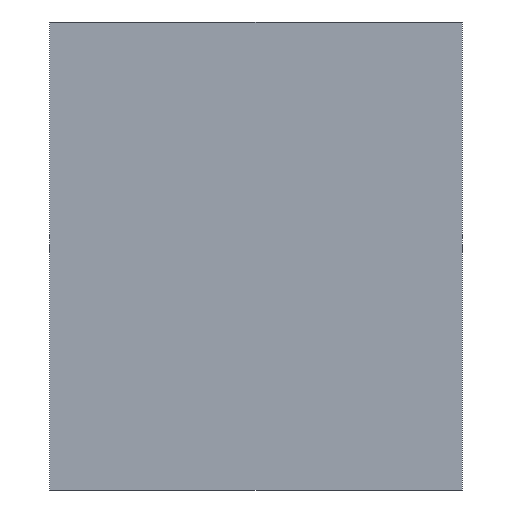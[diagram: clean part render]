
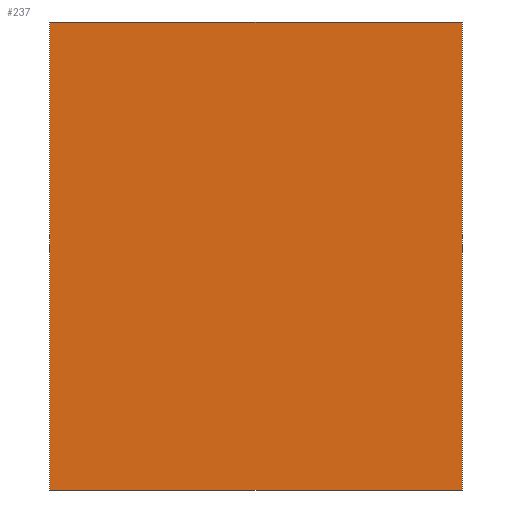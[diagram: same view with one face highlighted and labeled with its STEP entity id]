
A CAD part, front view. The second image highlights one B-rep face of the part: STEP entity #237.
In plain terms, the highlighted planar face has unit normal (0, -1, 0).
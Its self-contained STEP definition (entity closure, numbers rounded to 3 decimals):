
#21 = EDGE_CURVE('',#22,#24,#26,.T.);
#22 = VERTEX_POINT('',#23);
#23 = CARTESIAN_POINT('',(10.5,-45.775,1.3));
#24 = VERTEX_POINT('',#25);
#25 = CARTESIAN_POINT('',(10.5,-45.775,18.3));
#26 = SURFACE_CURVE('',#27,(#31,#43),.PCURVE_S1.);
#27 = LINE('',#28,#29);
#28 = CARTESIAN_POINT('',(10.5,-45.775,1.3));
#29 = VECTOR('',#30,1.);
#30 = DIRECTION('',(0.,0.,1.));
#31 = PCURVE('',#32,#37);
#32 = PLANE('',#33);
#33 = AXIS2_PLACEMENT_3D('',#34,#35,#36);
#34 = CARTESIAN_POINT('',(10.5,-45.775,1.3));
#35 = DIRECTION('',(1.,0.,0.));
#36 = DIRECTION('',(0.,0.,1.));
#37 = DEFINITIONAL_REPRESENTATION('',(#38),#42);
#38 = LINE('',#39,#40);
#39 = CARTESIAN_POINT('',(0.,0.));
#40 = VECTOR('',#41,1.);
#41 = DIRECTION('',(1.,0.));
#42 = ( GEOMETRIC_REPRESENTATION_CONTEXT(2) 
PARAMETRIC_REPRESENTATION_CONTEXT() REPRESENTATION_CONTEXT('2D SPACE',''
  ) );
#43 = PCURVE('',#44,#49);
#44 = PLANE('',#45);
#45 = AXIS2_PLACEMENT_3D('',#46,#47,#48);
#46 = CARTESIAN_POINT('',(10.5,-45.775,1.3));
#47 = DIRECTION('',(0.,1.,0.));
#48 = DIRECTION('',(0.,0.,1.));
#49 = DEFINITIONAL_REPRESENTATION('',(#50),#54);
#50 = LINE('',#51,#52);
#51 = CARTESIAN_POINT('',(0.,0.));
#52 = VECTOR('',#53,1.);
#53 = DIRECTION('',(1.,0.));
#54 = ( GEOMETRIC_REPRESENTATION_CONTEXT(2) 
PARAMETRIC_REPRESENTATION_CONTEXT() REPRESENTATION_CONTEXT('2D SPACE',''
  ) );
#72 = PLANE('',#73);
#73 = AXIS2_PLACEMENT_3D('',#74,#75,#76);
#74 = CARTESIAN_POINT('',(10.5,-45.775,1.3));
#75 = DIRECTION('',(0.,0.,1.));
#76 = DIRECTION('',(1.,0.,0.));
#126 = PLANE('',#127);
#127 = AXIS2_PLACEMENT_3D('',#128,#129,#130);
#128 = CARTESIAN_POINT('',(10.5,-45.775,18.3));
#129 = DIRECTION('',(0.,0.,1.));
#130 = DIRECTION('',(1.,0.,0.));
#141 = EDGE_CURVE('',#142,#144,#146,.T.);
#142 = VERTEX_POINT('',#143);
#143 = CARTESIAN_POINT('',(25.5,-45.775,1.3));
#144 = VERTEX_POINT('',#145);
#145 = CARTESIAN_POINT('',(25.5,-45.775,18.3));
#146 = SURFACE_CURVE('',#147,(#151,#163),.PCURVE_S1.);
#147 = LINE('',#148,#149);
#148 = CARTESIAN_POINT('',(25.5,-45.775,1.3));
#149 = VECTOR('',#150,1.);
#150 = DIRECTION('',(0.,0.,1.));
#151 = PCURVE('',#152,#157);
#152 = PLANE('',#153);
#153 = AXIS2_PLACEMENT_3D('',#154,#155,#156);
#154 = CARTESIAN_POINT('',(25.5,-45.775,1.3));
#155 = DIRECTION('',(1.,0.,0.));
#156 = DIRECTION('',(0.,0.,1.));
#157 = DEFINITIONAL_REPRESENTATION('',(#158),#162);
#158 = LINE('',#159,#160);
#159 = CARTESIAN_POINT('',(0.,0.));
#160 = VECTOR('',#161,1.);
#161 = DIRECTION('',(1.,0.));
#162 = ( GEOMETRIC_REPRESENTATION_CONTEXT(2) 
PARAMETRIC_REPRESENTATION_CONTEXT() REPRESENTATION_CONTEXT('2D SPACE',''
  ) );
#163 = PCURVE('',#44,#164);
#164 = DEFINITIONAL_REPRESENTATION('',(#165),#169);
#165 = LINE('',#166,#167);
#166 = CARTESIAN_POINT('',(0.,15.));
#167 = VECTOR('',#168,1.);
#168 = DIRECTION('',(1.,0.));
#169 = ( GEOMETRIC_REPRESENTATION_CONTEXT(2) 
PARAMETRIC_REPRESENTATION_CONTEXT() REPRESENTATION_CONTEXT('2D SPACE',''
  ) );
#237 = ADVANCED_FACE('',(#238),#44,.F.);
#238 = FACE_BOUND('',#239,.F.);
#239 = EDGE_LOOP('',(#240,#261,#262,#283));
#240 = ORIENTED_EDGE('',*,*,#241,.F.);
#241 = EDGE_CURVE('',#22,#142,#242,.T.);
#242 = SURFACE_CURVE('',#243,(#247,#254),.PCURVE_S1.);
#243 = LINE('',#244,#245);
#244 = CARTESIAN_POINT('',(10.5,-45.775,1.3));
#245 = VECTOR('',#246,1.);
#246 = DIRECTION('',(1.,0.,0.));
#247 = PCURVE('',#44,#248);
#248 = DEFINITIONAL_REPRESENTATION('',(#249),#253);
#249 = LINE('',#250,#251);
#250 = CARTESIAN_POINT('',(0.,0.));
#251 = VECTOR('',#252,1.);
#252 = DIRECTION('',(0.,1.));
#253 = ( GEOMETRIC_REPRESENTATION_CONTEXT(2) 
PARAMETRIC_REPRESENTATION_CONTEXT() REPRESENTATION_CONTEXT('2D SPACE',''
  ) );
#254 = PCURVE('',#72,#255);
#255 = DEFINITIONAL_REPRESENTATION('',(#256),#260);
#256 = LINE('',#257,#258);
#257 = CARTESIAN_POINT('',(0.,0.));
#258 = VECTOR('',#259,1.);
#259 = DIRECTION('',(1.,0.));
#260 = ( GEOMETRIC_REPRESENTATION_CONTEXT(2) 
PARAMETRIC_REPRESENTATION_CONTEXT() REPRESENTATION_CONTEXT('2D SPACE',''
  ) );
#261 = ORIENTED_EDGE('',*,*,#21,.T.);
#262 = ORIENTED_EDGE('',*,*,#263,.T.);
#263 = EDGE_CURVE('',#24,#144,#264,.T.);
#264 = SURFACE_CURVE('',#265,(#269,#276),.PCURVE_S1.);
#265 = LINE('',#266,#267);
#266 = CARTESIAN_POINT('',(10.5,-45.775,18.3));
#267 = VECTOR('',#268,1.);
#268 = DIRECTION('',(1.,0.,0.));
#269 = PCURVE('',#44,#270);
#270 = DEFINITIONAL_REPRESENTATION('',(#271),#275);
#271 = LINE('',#272,#273);
#272 = CARTESIAN_POINT('',(17.,0.));
#273 = VECTOR('',#274,1.);
#274 = DIRECTION('',(0.,1.));
#275 = ( GEOMETRIC_REPRESENTATION_CONTEXT(2) 
PARAMETRIC_REPRESENTATION_CONTEXT() REPRESENTATION_CONTEXT('2D SPACE',''
  ) );
#276 = PCURVE('',#126,#277);
#277 = DEFINITIONAL_REPRESENTATION('',(#278),#282);
#278 = LINE('',#279,#280);
#279 = CARTESIAN_POINT('',(0.,0.));
#280 = VECTOR('',#281,1.);
#281 = DIRECTION('',(1.,0.));
#282 = ( GEOMETRIC_REPRESENTATION_CONTEXT(2) 
PARAMETRIC_REPRESENTATION_CONTEXT() REPRESENTATION_CONTEXT('2D SPACE',''
  ) );
#283 = ORIENTED_EDGE('',*,*,#141,.F.);
